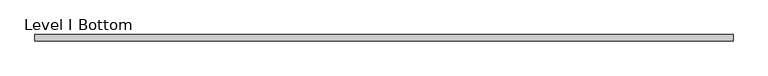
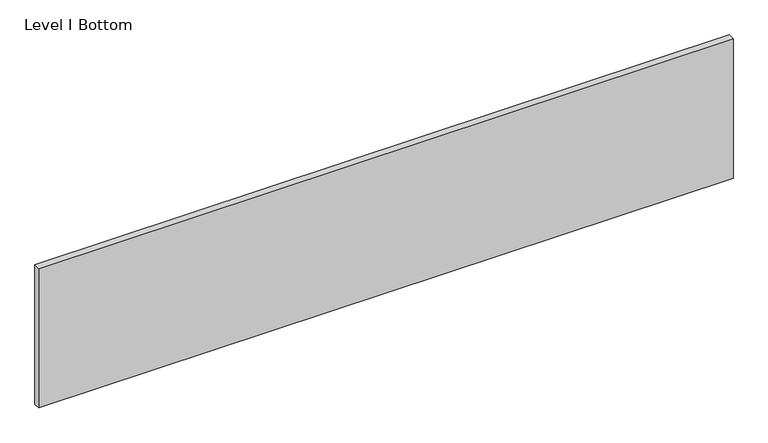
"""IFC4 building model written with IfcOpenShell, lengths in millimetres: proxy geometry, Panel-Fascia-Teknion-Altos-Landscape : Level I Bottom."""

from ifc_helpers import new_model, si_unit, frame, origin, place, context, project, spatial, polyline, outline, extrude, source, transform, mapped, element, save


def level_i_bottom_1aac6edf(model_context):
    return source(origin(), model_context, "Body", "SweptSolid", [
        extrude(outline(polyline([(1012.8305563, -9.525), (-1012.8305562, -9.525), (-1012.8305562, 9.525), (1012.8305563, 9.525), (1012.8305563, -9.525)])), frame((0.0, 0.0, 3.175), z_axis=(0.0, 0.0, 1.0), x_axis=(1.0, 0.0, 0.0)), (0.0, 0.0, 1.0), 429.768),
    ])


if __name__ == "__main__":
    model = new_model("IFC4")
    model_context = context("Model", 3, world=origin())
    ifc_project = project(units=[si_unit("LENGTHUNIT", "METRE", prefix="MILLI")], contexts=[model_context])
    site = spatial("IfcSite", under=ifc_project)
    building = spatial("IfcBuilding", under=site)
    placement = place(None, origin())
    level_i_bottom_shape = level_i_bottom_1aac6edf(model_context)
    element("IfcBuildingElementProxy", 1, Name="Panel-Fascia-Teknion-Altos-Landscape : Level I Bottom", ObjectType="Panel-Fascia-Teknion-Altos-Landscape : Level I Bottom", at=placement, inside=building, context=model_context, shape_type="MappedRepresentation", body=[
        mapped(level_i_bottom_shape, transform((0.0, 0.0, 0.0), x_axis=(1.0, 0.0, 0.0), y_axis=(0.0, 1.0, 0.0), z_axis=(0.0, 0.0, 1.0))),
    ])
    save(model, "model.ifc")
